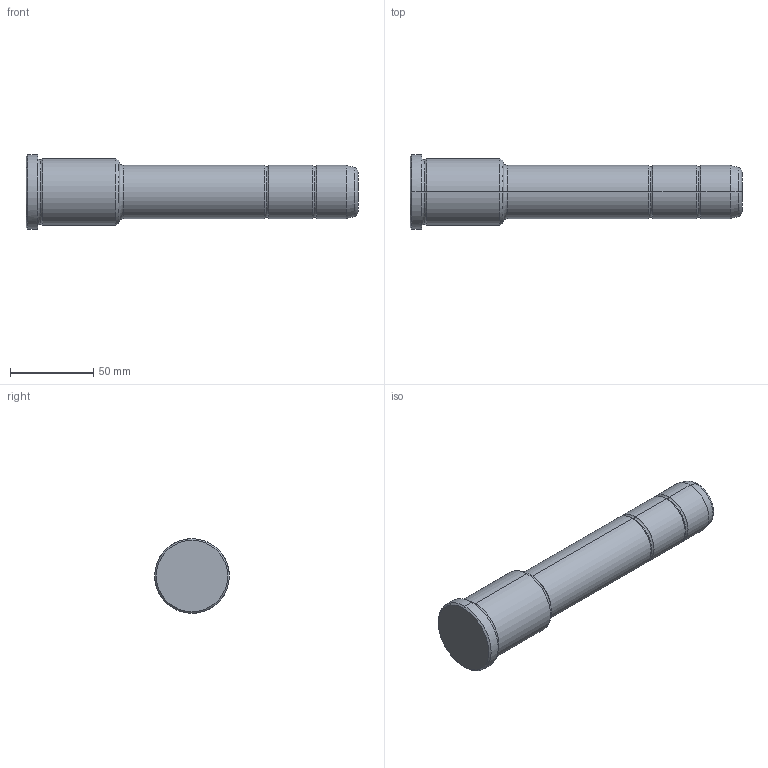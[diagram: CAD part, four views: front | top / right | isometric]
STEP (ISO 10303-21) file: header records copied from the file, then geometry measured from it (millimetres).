
FILE_DESCRIPTION(('CATIA V5 STEP Exchange'),'2;1');
FILE_NAME('C:\Users\Utente\Desktop\IO LAVORO\3D X SITO CF\X SITO\PLASTICA\351\351-32X56X200.stp','2021-09-07T12:34:09+00:00',('none'),('none'),'CATIA Version 5 Release 20 GA (IN-10)','CATIA V5 STEP AP203','none');
FILE_SCHEMA(('CONFIG_CONTROL_DESIGN'));
Length unit declared in the file: millimetre
Products named in the file (1): 351-32X56X200
Bounding box: 200 x 45 x 45 mm (x, y, z)
Volume: 187314.6 mm3; surface area: 24375.1 mm2
Topology: 1 solids, 1 shells, 36 faces, 102 edges, 70 vertices
Faces by surface type: torus 16, cylinder 10, cone 6, plane 4
Entity records: 1292 total; most frequent: CARTESIAN_POINT 321, ORIENTED_EDGE 204, DIRECTION 166, AXIS2_PLACEMENT_3D 115, EDGE_CURVE 102, CIRCLE 78, VERTEX_POINT 70, EDGE_LOOP 38
